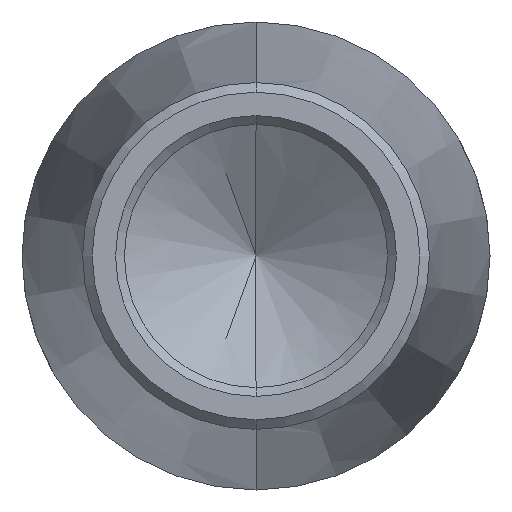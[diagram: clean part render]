
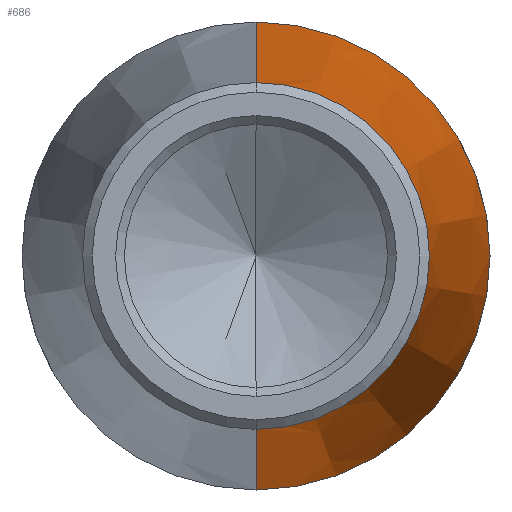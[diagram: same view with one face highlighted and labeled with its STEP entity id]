
A CAD part, front view. The second image highlights one B-rep face of the part: STEP entity #686.
In plain terms, the highlighted conical face has half-angle 6 degrees and reference radius 8 mm.
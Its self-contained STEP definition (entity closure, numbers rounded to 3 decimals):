
#25 = DIRECTION ( 'NONE',  ( 0., 0., 1. ) ) ;
#39 = CARTESIAN_POINT ( 'NONE',  ( 0., -19.702, -5.929 ) ) ;
#140 = EDGE_CURVE ( 'NONE', #823, #234, #793, .T. ) ;
#142 = VECTOR ( 'NONE', #316, 1000. ) ;
#154 = CARTESIAN_POINT ( 'NONE',  ( 0., 0., -8. ) ) ;
#161 = CIRCLE ( 'NONE', #824, 5.929 ) ;
#183 = CARTESIAN_POINT ( 'NONE',  ( 0., 0., 8. ) ) ;
#199 = EDGE_LOOP ( 'NONE', ( #791, #754, #442, #809 ) ) ;
#224 = CARTESIAN_POINT ( 'NONE',  ( 0., 0., 0. ) ) ;
#234 = VERTEX_POINT ( 'NONE', #779 ) ;
#268 = CIRCLE ( 'NONE', #386, 8. ) ;
#273 = VERTEX_POINT ( 'NONE', #455 ) ;
#316 = DIRECTION ( 'NONE',  ( 0., 0.995, 0.105 ) ) ;
#319 = DIRECTION ( 'NONE',  ( 0., 0., 1. ) ) ;
#335 = CARTESIAN_POINT ( 'NONE',  ( 0., -19.702, 5.929 ) ) ;
#360 = DIRECTION ( 'NONE',  ( 0., 1., 0. ) ) ;
#386 = AXIS2_PLACEMENT_3D ( 'NONE', #224, #844, #319 ) ;
#429 = EDGE_CURVE ( 'NONE', #620, #273, #587, .T. ) ;
#438 = CONICAL_SURFACE ( 'NONE', #690, 8., 0.105 ) ;
#439 = DIRECTION ( 'NONE',  ( 0., 0.995, -0.105 ) ) ;
#442 = ORIENTED_EDGE ( 'NONE', *, *, #682, .F. ) ;
#455 = CARTESIAN_POINT ( 'NONE',  ( 0., 0., 8. ) ) ;
#501 = DIRECTION ( 'NONE',  ( 0., 1., 0. ) ) ;
#587 = LINE ( 'NONE', #183, #142 ) ;
#614 = VECTOR ( 'NONE', #439, 1000. ) ;
#620 = VERTEX_POINT ( 'NONE', #335 ) ;
#682 = EDGE_CURVE ( 'NONE', #273, #234, #268, .T. ) ;
#686 = ADVANCED_FACE ( 'NONE', ( #863 ), #438, .T. ) ;
#690 = AXIS2_PLACEMENT_3D ( 'NONE', #699, #501, #25 ) ;
#699 = CARTESIAN_POINT ( 'NONE',  ( 0., 0., 0. ) ) ;
#705 = DIRECTION ( 'NONE',  ( 0., 0., 1. ) ) ;
#751 = EDGE_CURVE ( 'NONE', #620, #823, #161, .T. ) ;
#754 = ORIENTED_EDGE ( 'NONE', *, *, #140, .T. ) ;
#777 = CARTESIAN_POINT ( 'NONE',  ( 0., -19.702, 0. ) ) ;
#779 = CARTESIAN_POINT ( 'NONE',  ( 0., 0., -8. ) ) ;
#791 = ORIENTED_EDGE ( 'NONE', *, *, #751, .T. ) ;
#793 = LINE ( 'NONE', #154, #614 ) ;
#809 = ORIENTED_EDGE ( 'NONE', *, *, #429, .F. ) ;
#823 = VERTEX_POINT ( 'NONE', #39 ) ;
#824 = AXIS2_PLACEMENT_3D ( 'NONE', #777, #360, #705 ) ;
#844 = DIRECTION ( 'NONE',  ( 0., 1., 0. ) ) ;
#863 = FACE_OUTER_BOUND ( 'NONE', #199, .T. ) ;
